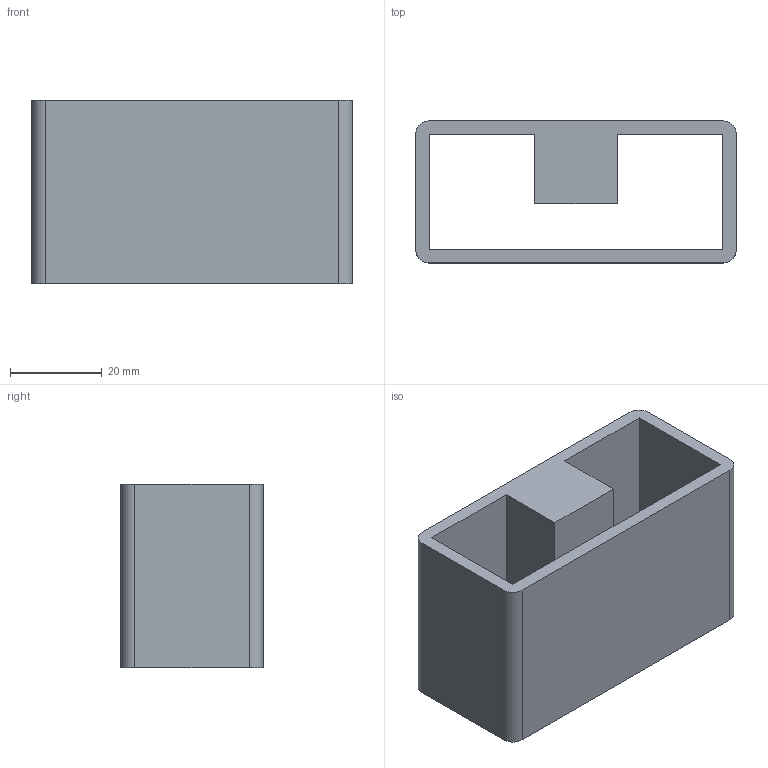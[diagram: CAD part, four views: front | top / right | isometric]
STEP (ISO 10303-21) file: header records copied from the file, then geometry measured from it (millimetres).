
FILE_DESCRIPTION(/* description */ (''),/* implementation_level */ '2;1');
FILE_NAME(/* name */ 'kran_nasadka_v2 v3.step',/* time_stamp */ '2026-04-10T14:31:14+02:00',/* author */ (''),/* organization */ (''),/* preprocessor_version */ 'ST-DEVELOPER v20.1',/* originating_system */ 'Autodesk Translation Framework v14.24.0.0',/* authorisation */ '');
FILE_SCHEMA (('AUTOMOTIVE_DESIGN { 1 0 10303 214 3 1 1 }'));
Length unit declared in the file: millimetre
Products named in the file (1): (Niezapisany)
Bounding box: 70 x 31 x 40 mm (x, y, z)
Volume: 28971.2 mm3; surface area: 19276.2 mm2
Topology: 1 solids, 1 shells, 21 faces, 54 edges, 36 vertices
Faces by surface type: plane 16, cylinder 5
Entity records: 675 total; most frequent: CARTESIAN_POINT 112, ORIENTED_EDGE 108, DIRECTION 108, EDGE_CURVE 54, LINE 44, VECTOR 44, VERTEX_POINT 36, AXIS2_PLACEMENT_3D 32
